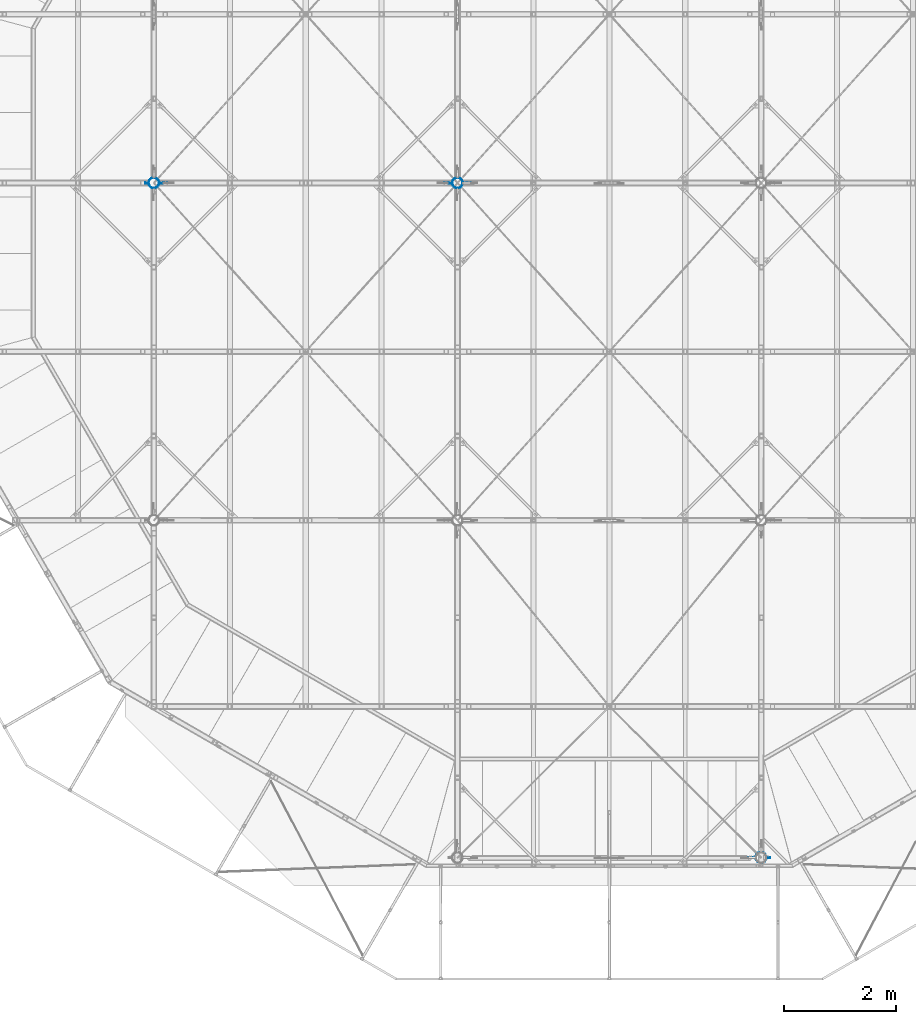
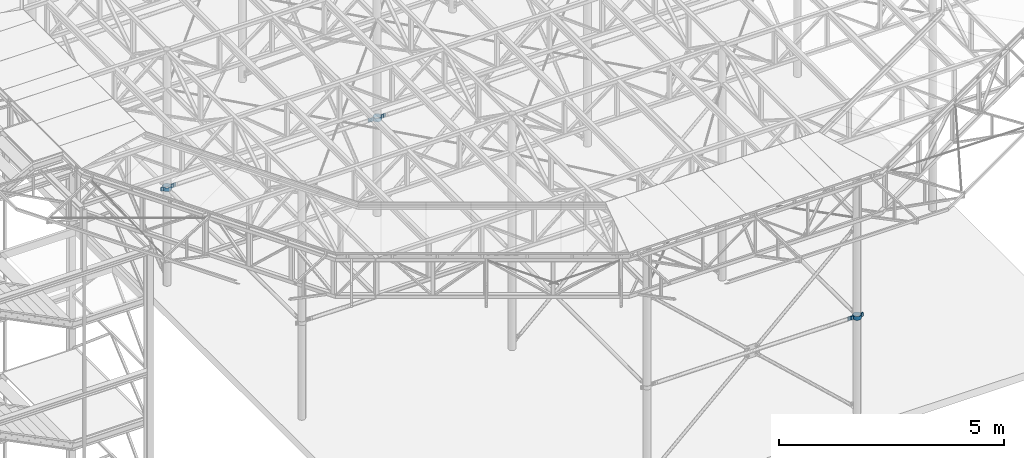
# One storey, part 127 of 132: 6 beams, 6 elements without a shape of their own.
"""IFC2X3 building model written with IfcOpenShell, lengths in millimetres."""

from ifc_helpers import new_model, si_unit, frame, origin_with_axes, place, context, subcontext, project, spatial, faceted_brep, material, type_object, element, aggregate, save


model = new_model("IFC2X3")

# Units and contexts
model_context = context("Model", 3, precision=1e-05, world=origin_with_axes())
body_context = subcontext(model_context, "Body", "Model", "MODEL_VIEW")
ifc_project = project(units=[si_unit("LENGTHUNIT", "METRE", prefix="MILLI"), si_unit("AREAUNIT", "SQUARE_METRE"), si_unit("VOLUMEUNIT", "CUBIC_METRE"), si_unit("MASSUNIT", "GRAM", prefix="KILO"), si_unit("TIMEUNIT", "SECOND"), si_unit("PLANEANGLEUNIT", "RADIAN"), si_unit("SOLIDANGLEUNIT", "STERADIAN"), si_unit("THERMODYNAMICTEMPERATUREUNIT", "DEGREE_CELSIUS"), si_unit("LUMINOUSINTENSITYUNIT", "LUMEN")], contexts=[model_context])

# Site, building, storey
site_placement = place(None, origin_with_axes())
site = spatial("IfcSite", under=ifc_project, at=site_placement, Name="Budowa", CompositionType="ELEMENT")
building_placement = place(site_placement, origin_with_axes())
building = spatial("IfcBuilding", under=site, at=building_placement, Name="Undefined", CompositionType="ELEMENT")
storey_placement = place(building_placement, origin_with_axes())
storey = spatial("IfcBuildingStorey", under=building, at=storey_placement, Name="Undefined", CompositionType="ELEMENT", Elevation=0.0)

# Assembly, beam
assembly_1_placement = place(storey_placement, origin_with_axes())
assembly_1 = element("IfcElementAssembly", 1, at=assembly_1_placement, inside=storey, Name="Steel Assembly", AssemblyPlace="NOTDEFINED", PredefinedType="RIGID_FRAME")
ifc_material = material(Name="STEEL/S235JR")
beam_type = type_object("IfcBeamType", Name="BL8*100", PredefinedType="NOTDEFINED")
beam_1_placement = place(assembly_1_placement, frame((4258.13669400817, 12006.0000002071, 10116.0003779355), z_axis=(0.0, 0.0, 1.0), x_axis=(-1.0, 0.0, 0.0)))
beam_1 = element("IfcBeam", 2, at=beam_1_placement, type_object=beam_type, material=ifc_material, Name="BEAM", ObjectType="BL8*100", context=body_context, shape_type="Brep", body=[
    faceted_brep([(0.0, 4.0, -50.0), (0.0, 4.0, 50.0), (129.968378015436, 4.0, 50.0), (129.968378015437, 4.00000000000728, -50.0), (0.0, -4.0, 50.0), (0.0, -4.0, -50.0), (129.968378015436, -4.0, -50.0), (129.968378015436, -4.0, 50.0), (137.356355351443, 2.19217357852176, 50.0), (137.356355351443, 2.19217357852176, -50.0), (133.662366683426, -4.90391321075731, -50.0), (133.662366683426, -4.90391321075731, 50.0), (136.521594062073, -7.41138806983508, -50.0), (136.521594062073, -7.41138806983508, 50.0), (143.074810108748, -2.8227761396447, 50.0), (143.074810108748, -2.8227761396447, -50.0), (137.89993680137, -10.955789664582, -50.0), (137.89993680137, -10.955789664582, 50.0), (145.831495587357, -9.91157932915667, 50.0), (145.831495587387, -9.91157932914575, -50.0), (146.782928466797, -17.1384239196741, 50.0), (146.782928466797, -17.1384239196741, -50.0), (138.988842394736, -19.2268423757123, -50.0), (138.988842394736, -19.2268423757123, 50.0), (155.714019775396, -38.7000007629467, 50.0), (155.714019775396, -38.7000007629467, -50.0), (148.726032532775, -42.7345153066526, -50.0), (148.726032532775, -42.7345153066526, 50.0), (169.921340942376, -57.2153472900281, 50.0), (169.921340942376, -57.2153472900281, -50.0), (164.215673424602, -62.9210138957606, -50.0), (164.215673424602, -62.9210138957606, 50.0), (188.436691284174, -71.4226760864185, 50.0), (188.436691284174, -71.4226760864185, -50.0), (184.402176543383, -78.4106633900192, -50.0), (184.402176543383, -78.4106633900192, 50.0), (209.998275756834, -80.3537673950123, 50.0), (209.998275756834, -80.3537673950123, -50.0), (207.909857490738, -88.1478534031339, -50.0), (207.909857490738, -88.1478534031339, 50.0), (233.136688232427, -83.4000015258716, 50.0), (233.136688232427, -83.4000015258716, -50.0), (233.136687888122, -91.4690333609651, -50.0), (233.136687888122, -91.4690333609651, 50.0), (256.275115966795, -80.3537673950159, 50.0), (256.275115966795, -80.3537673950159, -50.0), (258.363533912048, -88.1478535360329, -50.0), (258.363533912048, -88.1478535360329, 50.0), (277.836700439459, -71.4226760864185, 50.0), (277.836700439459, -71.4226760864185, -50.0), (281.87121518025, -78.4106633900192, -50.0), (281.87121518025, -78.4106633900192, 50.0), (296.352050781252, -57.2153472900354, 50.0), (296.352050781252, -57.2153472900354, -50.0), (302.057719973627, -62.9210126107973, -50.0), (302.057719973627, -62.9210126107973, 50.0), (310.559356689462, -38.7000007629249, 50.0), (310.559356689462, -38.7000007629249, -50.0), (317.5473417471, -42.7345172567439, -50.0), (317.5473417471, -42.7345172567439, 50.0), (319.490478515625, -17.138423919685, 50.0), (319.490478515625, -17.138423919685, -50.0), (327.284563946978, -19.2268472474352, -50.0), (327.284563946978, -19.2268472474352, 50.0), (320.4419114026, -9.91157923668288, 50.0), (320.441911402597, -9.91157923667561, -50.0), (328.37347018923, -10.9557895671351, -50.0), (328.37347018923, -10.9557895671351, 50.0), (323.198596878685, -2.82277604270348, 50.0), (323.198596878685, -2.82277604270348, -50.0), (329.75181292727, -7.41138797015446, -50.0), (329.75181292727, -7.41138797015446, 50.0), (332.611040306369, -4.90391310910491, -50.0), (332.611040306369, -4.90391310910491, 50.0), (328.917051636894, 2.19217367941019, 50.0), (328.917051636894, 2.19217367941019, -50.0), (336.305028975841, -3.99999989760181, -50.0), (336.305028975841, -3.99999989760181, 50.0), (336.30502897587, 4.00000010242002, 50.0), (336.305028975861, 4.0000001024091, -50.0), (391.273406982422, 4.0000001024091, 50.0), (391.273406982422, 4.0000001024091, -50.0), (391.273406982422, -3.9999998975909, 50.0), (391.273406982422, -3.9999998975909, -50.0)], [[[0, 1, 2, 3]], [[4, 5, 6, 7]], [[5, 4, 1, 0]], [[3, 2, 8, 9]], [[7, 6, 10, 11]], [[10, 12, 13, 11]], [[8, 14, 15, 9]], [[12, 16, 17, 13]], [[14, 18, 19, 15]], [[19, 18, 20, 21]], [[17, 16, 22, 23]], [[21, 20, 24, 25]], [[23, 22, 26, 27]], [[25, 24, 28, 29]], [[27, 26, 30, 31]], [[29, 28, 32, 33]], [[31, 30, 34, 35]], [[33, 32, 36, 37]], [[35, 34, 38, 39]], [[37, 36, 40, 41]], [[39, 38, 42, 43]], [[41, 40, 44, 45]], [[43, 42, 46, 47]], [[45, 44, 48, 49]], [[47, 46, 50, 51]], [[49, 48, 52, 53]], [[51, 50, 54, 55]], [[53, 52, 56, 57]], [[55, 54, 58, 59]], [[57, 56, 60, 61]], [[59, 58, 62, 63]], [[61, 60, 64, 65]], [[63, 62, 66, 67]], [[65, 64, 68, 69]], [[67, 66, 70, 71]], [[70, 72, 73, 71]], [[68, 74, 75, 69]], [[72, 76, 77, 73]], [[74, 78, 79, 75]], [[79, 78, 80, 81]], [[78, 74, 68, 64, 60, 56, 52, 48, 44, 40, 36, 32, 28, 24, 20, 18, 14, 8, 2, 1, 4, 7, 11, 13, 17, 23, 27, 31, 35, 39, 43, 47, 51, 55, 59, 63, 67, 71, 73, 77, 82, 80]], [[77, 76, 83, 82]], [[76, 72, 70, 66, 62, 58, 54, 50, 46, 42, 38, 34, 30, 26, 22, 16, 12, 10, 6, 5, 0, 3, 9, 15, 19, 21, 25, 29, 33, 37, 41, 45, 49, 53, 57, 61, 65, 69, 75, 79, 81, 83]], [[82, 83, 81, 80]]]),
])
aggregate(assembly_1, [beam_1])

assembly_2_placement = place(storey_placement, origin_with_axes())
assembly_2 = element("IfcElementAssembly", 3, at=assembly_2_placement, inside=storey, Name="Steel Assembly", AssemblyPlace="NOTDEFINED", PredefinedType="RIGID_FRAME")
beam_2_placement = place(assembly_2_placement, frame((4183.13669400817, 11993.9999999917, 10116.0003779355), z_axis=(0.0, 0.0, 1.0), x_axis=(-1.0, 0.0, 0.0)))
beam_2 = element("IfcBeam", 4, at=beam_2_placement, type_object=beam_type, material=ifc_material, Name="BEAM", ObjectType="BL8*100", context=body_context, shape_type="Brep", body=[
    faceted_brep([(0.0, 4.0, -50.0), (0.0, 4.0, 50.0), (54.9683780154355, 4.0, 50.0), (54.9683780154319, 4.00000000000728, -50.0), (0.0, -4.0, 50.0), (0.0, -4.0, -50.0), (54.9683780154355, -4.0, -50.0), (54.9683780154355, -4.0, 50.0), (58.6623666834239, 4.90391321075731, 50.0), (58.6623666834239, 4.90391321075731, -50.0), (62.3563553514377, -2.19217357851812, -50.0), (62.3563553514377, -2.19217357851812, 50.0), (68.0748101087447, 2.82277613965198, -50.0), (68.0748101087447, 2.82277613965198, 50.0), (61.5215940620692, 7.41138806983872, 50.0), (61.5215940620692, 7.41138806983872, -50.0), (70.8314955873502, 9.91157932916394, -50.0), (70.8314955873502, 9.91157932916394, 50.0), (62.8999368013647, 10.9557896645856, 50.0), (62.899936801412, 10.9557896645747, -50.0), (63.9888423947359, 19.2268423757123, 50.0), (63.9888423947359, 19.2268423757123, -50.0), (71.7829284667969, 17.1384239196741, -50.0), (71.7829284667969, 17.1384239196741, 50.0), (73.7260325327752, 42.7345153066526, 50.0), (73.7260325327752, 42.7345153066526, -50.0), (80.7140197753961, 38.7000007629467, -50.0), (80.7140197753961, 38.7000007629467, 50.0), (89.2156734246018, 62.9210138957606, 50.0), (89.2156734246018, 62.9210138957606, -50.0), (94.9213409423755, 57.2153472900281, -50.0), (94.9213409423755, 57.2153472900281, 50.0), (109.402176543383, 78.4106633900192, 50.0), (109.402176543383, 78.4106633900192, -50.0), (113.436691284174, 71.4226760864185, -50.0), (113.436691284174, 71.4226760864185, 50.0), (132.909857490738, 88.1478534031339, 50.0), (132.909857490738, 88.1478534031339, -50.0), (134.998275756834, 80.3537673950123, -50.0), (134.998275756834, 80.3537673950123, 50.0), (158.136687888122, 91.4690333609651, 50.0), (158.136687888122, 91.4690333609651, -50.0), (158.136688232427, 83.4000015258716, -50.0), (158.136688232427, 83.4000015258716, 50.0), (183.363533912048, 88.1478535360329, 50.0), (183.363533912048, 88.1478535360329, -50.0), (181.275115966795, 80.3537673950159, -50.0), (181.275115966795, 80.3537673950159, 50.0), (206.87121518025, 78.4106633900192, 50.0), (206.87121518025, 78.4106633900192, -50.0), (202.836700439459, 71.4226760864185, -50.0), (202.836700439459, 71.4226760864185, 50.0), (227.057719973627, 62.9210126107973, 50.0), (227.057719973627, 62.9210126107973, -50.0), (221.352050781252, 57.2153472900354, -50.0), (221.352050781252, 57.2153472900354, 50.0), (242.5473417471, 42.7345172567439, 50.0), (242.5473417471, 42.7345172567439, -50.0), (235.559356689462, 38.7000007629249, -50.0), (235.559356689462, 38.7000007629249, 50.0), (252.284563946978, 19.2268472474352, 50.0), (252.284563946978, 19.2268472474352, -50.0), (244.490478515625, 17.138423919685, -50.0), (244.490478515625, 17.138423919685, 50.0), (253.37347018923, 10.9557895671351, 50.0), (253.373470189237, 10.9557895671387, -50.0), (245.4419114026, 9.91157923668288, -50.0), (245.4419114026, 9.91157923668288, 50.0), (254.751812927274, 7.4113879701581, 50.0), (254.751812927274, 7.4113879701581, -50.0), (248.198596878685, 2.82277604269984, -50.0), (248.198596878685, 2.82277604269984, 50.0), (253.91705163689, -2.19217367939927, -50.0), (253.91705163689, -2.19217367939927, 50.0), (257.611040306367, 4.90391310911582, 50.0), (257.611040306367, 4.90391310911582, -50.0), (261.305028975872, -4.00000010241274, -50.0), (261.305028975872, -4.00000010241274, 50.0), (261.305028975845, 3.99999989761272, 50.0), (261.305028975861, 3.9999998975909, -50.0), (316.273406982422, 3.9999998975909, 50.0), (316.273406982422, 3.9999998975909, -50.0), (316.273406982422, -4.0000001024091, 50.0), (316.273406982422, -4.0000001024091, -50.0)], [[[0, 1, 2, 3]], [[4, 5, 6, 7]], [[5, 4, 1, 0]], [[3, 2, 8, 9]], [[7, 6, 10, 11]], [[10, 12, 13, 11]], [[8, 14, 15, 9]], [[12, 16, 17, 13]], [[14, 18, 19, 15]], [[19, 18, 20, 21]], [[17, 16, 22, 23]], [[21, 20, 24, 25]], [[23, 22, 26, 27]], [[25, 24, 28, 29]], [[27, 26, 30, 31]], [[29, 28, 32, 33]], [[31, 30, 34, 35]], [[33, 32, 36, 37]], [[35, 34, 38, 39]], [[37, 36, 40, 41]], [[39, 38, 42, 43]], [[41, 40, 44, 45]], [[43, 42, 46, 47]], [[45, 44, 48, 49]], [[47, 46, 50, 51]], [[49, 48, 52, 53]], [[51, 50, 54, 55]], [[53, 52, 56, 57]], [[55, 54, 58, 59]], [[57, 56, 60, 61]], [[59, 58, 62, 63]], [[61, 60, 64, 65]], [[63, 62, 66, 67]], [[65, 64, 68, 69]], [[67, 66, 70, 71]], [[70, 72, 73, 71]], [[68, 74, 75, 69]], [[72, 76, 77, 73]], [[74, 78, 79, 75]], [[79, 78, 80, 81]], [[78, 74, 68, 64, 60, 56, 52, 48, 44, 40, 36, 32, 28, 24, 20, 18, 14, 8, 2, 1, 4, 7, 11, 13, 17, 23, 27, 31, 35, 39, 43, 47, 51, 55, 59, 63, 67, 71, 73, 77, 82, 80]], [[77, 76, 83, 82]], [[76, 72, 70, 66, 62, 58, 54, 50, 46, 42, 38, 34, 30, 26, 22, 16, 12, 10, 6, 5, 0, 3, 9, 15, 19, 21, 25, 29, 33, 37, 41, 45, 49, 53, 57, 61, 65, 69, 75, 79, 81, 83]], [[82, 83, 81, 80]]]),
])
aggregate(assembly_2, [beam_2])

assembly_3_placement = place(storey_placement, origin_with_axes())
assembly_3 = element("IfcElementAssembly", 5, at=assembly_3_placement, inside=storey, Name="Steel Assembly", AssemblyPlace="NOTDEFINED", PredefinedType="RIGID_FRAME")
beam_3_placement = place(assembly_3_placement, frame((9658.13669408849, 12006.00000016, 10116.0003779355), z_axis=(0.0, 0.0, 1.0), x_axis=(-1.0, 0.0, 0.0)))
beam_3 = element("IfcBeam", 6, at=beam_3_placement, type_object=beam_type, material=ifc_material, Name="BEAM", ObjectType="BL8*100", context=body_context, shape_type="Brep", body=[
    faceted_brep([(0.0, 4.0, -50.0), (0.0, 4.0, 50.0), (129.968378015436, 4.0, 50.0), (129.968378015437, 4.00000000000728, -50.0), (0.0, -4.0, 50.0), (0.0, -4.0, -50.0), (129.968378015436, -4.0, -50.0), (129.968378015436, -4.0, 50.0), (137.356355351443, 2.19217357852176, 50.0), (137.356355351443, 2.19217357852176, -50.0), (133.662366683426, -4.90391321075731, -50.0), (133.662366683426, -4.90391321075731, 50.0), (136.521594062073, -7.41138806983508, -50.0), (136.521594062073, -7.41138806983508, 50.0), (143.074810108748, -2.8227761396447, 50.0), (143.074810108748, -2.8227761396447, -50.0), (137.89993680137, -10.955789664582, -50.0), (137.89993680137, -10.955789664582, 50.0), (145.831495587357, -9.91157932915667, 50.0), (145.831495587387, -9.91157932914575, -50.0), (146.782928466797, -17.1384239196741, 50.0), (146.782928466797, -17.1384239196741, -50.0), (138.988842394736, -19.2268423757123, -50.0), (138.988842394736, -19.2268423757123, 50.0), (155.714019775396, -38.7000007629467, 50.0), (155.714019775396, -38.7000007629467, -50.0), (148.726032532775, -42.7345153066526, -50.0), (148.726032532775, -42.7345153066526, 50.0), (169.921340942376, -57.2153472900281, 50.0), (169.921340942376, -57.2153472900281, -50.0), (164.215673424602, -62.9210138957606, -50.0), (164.215673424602, -62.9210138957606, 50.0), (188.436691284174, -71.4226760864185, 50.0), (188.436691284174, -71.4226760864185, -50.0), (184.402176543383, -78.4106633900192, -50.0), (184.402176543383, -78.4106633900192, 50.0), (209.998275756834, -80.3537673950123, 50.0), (209.998275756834, -80.3537673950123, -50.0), (207.909857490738, -88.1478534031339, -50.0), (207.909857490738, -88.1478534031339, 50.0), (233.136688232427, -83.4000015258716, 50.0), (233.136688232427, -83.4000015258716, -50.0), (233.136687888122, -91.4690333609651, -50.0), (233.136687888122, -91.4690333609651, 50.0), (256.275115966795, -80.3537673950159, 50.0), (256.275115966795, -80.3537673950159, -50.0), (258.363533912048, -88.1478535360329, -50.0), (258.363533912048, -88.1478535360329, 50.0), (277.836700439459, -71.4226760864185, 50.0), (277.836700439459, -71.4226760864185, -50.0), (281.87121518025, -78.4106633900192, -50.0), (281.87121518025, -78.4106633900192, 50.0), (296.352050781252, -57.2153472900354, 50.0), (296.352050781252, -57.2153472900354, -50.0), (302.057719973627, -62.9210126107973, -50.0), (302.057719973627, -62.9210126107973, 50.0), (310.559356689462, -38.7000007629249, 50.0), (310.559356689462, -38.7000007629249, -50.0), (317.5473417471, -42.7345172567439, -50.0), (317.5473417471, -42.7345172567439, 50.0), (319.490478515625, -17.138423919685, 50.0), (319.490478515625, -17.138423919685, -50.0), (327.284563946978, -19.2268472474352, -50.0), (327.284563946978, -19.2268472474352, 50.0), (320.4419114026, -9.91157923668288, 50.0), (320.441911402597, -9.91157923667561, -50.0), (328.37347018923, -10.9557895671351, -50.0), (328.37347018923, -10.9557895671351, 50.0), (323.198596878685, -2.82277604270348, 50.0), (323.198596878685, -2.82277604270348, -50.0), (329.75181292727, -7.41138797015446, -50.0), (329.75181292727, -7.41138797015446, 50.0), (332.611040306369, -4.90391310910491, -50.0), (332.611040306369, -4.90391310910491, 50.0), (328.917051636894, 2.19217367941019, 50.0), (328.917051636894, 2.19217367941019, -50.0), (336.305028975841, -3.99999989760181, -50.0), (336.305028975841, -3.99999989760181, 50.0), (336.30502897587, 4.00000010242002, 50.0), (336.305028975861, 4.0000001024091, -50.0), (466.273406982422, 4.0000001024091, 50.0), (466.273406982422, 4.0000001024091, -50.0), (466.273406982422, -3.9999998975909, 50.0), (466.273406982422, -3.9999998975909, -50.0)], [[[0, 1, 2, 3]], [[4, 5, 6, 7]], [[5, 4, 1, 0]], [[3, 2, 8, 9]], [[7, 6, 10, 11]], [[10, 12, 13, 11]], [[8, 14, 15, 9]], [[12, 16, 17, 13]], [[14, 18, 19, 15]], [[19, 18, 20, 21]], [[17, 16, 22, 23]], [[21, 20, 24, 25]], [[23, 22, 26, 27]], [[25, 24, 28, 29]], [[27, 26, 30, 31]], [[29, 28, 32, 33]], [[31, 30, 34, 35]], [[33, 32, 36, 37]], [[35, 34, 38, 39]], [[37, 36, 40, 41]], [[39, 38, 42, 43]], [[41, 40, 44, 45]], [[43, 42, 46, 47]], [[45, 44, 48, 49]], [[47, 46, 50, 51]], [[49, 48, 52, 53]], [[51, 50, 54, 55]], [[53, 52, 56, 57]], [[55, 54, 58, 59]], [[57, 56, 60, 61]], [[59, 58, 62, 63]], [[61, 60, 64, 65]], [[63, 62, 66, 67]], [[65, 64, 68, 69]], [[67, 66, 70, 71]], [[70, 72, 73, 71]], [[68, 74, 75, 69]], [[72, 76, 77, 73]], [[74, 78, 79, 75]], [[79, 78, 80, 81]], [[78, 74, 68, 64, 60, 56, 52, 48, 44, 40, 36, 32, 28, 24, 20, 18, 14, 8, 2, 1, 4, 7, 11, 13, 17, 23, 27, 31, 35, 39, 43, 47, 51, 55, 59, 63, 67, 71, 73, 77, 82, 80]], [[77, 76, 83, 82]], [[76, 72, 70, 66, 62, 58, 54, 50, 46, 42, 38, 34, 30, 26, 22, 16, 12, 10, 6, 5, 0, 3, 9, 15, 19, 21, 25, 29, 33, 37, 41, 45, 49, 53, 57, 61, 65, 69, 75, 79, 81, 83]], [[82, 83, 81, 80]]]),
])
aggregate(assembly_3, [beam_3])

assembly_4_placement = place(storey_placement, origin_with_axes())
assembly_4 = element("IfcElementAssembly", 7, at=assembly_4_placement, inside=storey, Name="Steel Assembly", AssemblyPlace="NOTDEFINED", PredefinedType="RIGID_FRAME")
beam_4_placement = place(assembly_4_placement, frame((9583.13669408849, 11993.9999999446, 10116.0003779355), z_axis=(0.0, 0.0, 1.0), x_axis=(-1.0, 0.0, 0.0)))
beam_4 = element("IfcBeam", 8, at=beam_4_placement, type_object=beam_type, material=ifc_material, Name="BEAM", ObjectType="BL8*100", context=body_context, shape_type="Brep", body=[
    faceted_brep([(0.0, 4.0, -50.0), (0.0, 4.0, 50.0), (54.9683780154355, 4.0, 50.0), (54.9683780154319, 4.00000000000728, -50.0), (0.0, -4.0, 50.0), (0.0, -4.0, -50.0), (54.9683780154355, -4.0, -50.0), (54.9683780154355, -4.0, 50.0), (58.6623666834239, 4.90391321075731, 50.0), (58.6623666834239, 4.90391321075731, -50.0), (62.3563553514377, -2.19217357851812, -50.0), (62.3563553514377, -2.19217357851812, 50.0), (68.0748101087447, 2.82277613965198, -50.0), (68.0748101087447, 2.82277613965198, 50.0), (61.5215940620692, 7.41138806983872, 50.0), (61.5215940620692, 7.41138806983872, -50.0), (70.8314955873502, 9.91157932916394, -50.0), (70.8314955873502, 9.91157932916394, 50.0), (62.8999368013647, 10.9557896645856, 50.0), (62.899936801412, 10.9557896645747, -50.0), (63.9888423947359, 19.2268423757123, 50.0), (63.9888423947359, 19.2268423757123, -50.0), (71.7829284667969, 17.1384239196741, -50.0), (71.7829284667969, 17.1384239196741, 50.0), (73.7260325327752, 42.7345153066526, 50.0), (73.7260325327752, 42.7345153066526, -50.0), (80.7140197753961, 38.7000007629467, -50.0), (80.7140197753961, 38.7000007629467, 50.0), (89.2156734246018, 62.9210138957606, 50.0), (89.2156734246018, 62.9210138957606, -50.0), (94.9213409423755, 57.2153472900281, -50.0), (94.9213409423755, 57.2153472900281, 50.0), (109.402176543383, 78.4106633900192, 50.0), (109.402176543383, 78.4106633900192, -50.0), (113.436691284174, 71.4226760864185, -50.0), (113.436691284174, 71.4226760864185, 50.0), (132.909857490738, 88.1478534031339, 50.0), (132.909857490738, 88.1478534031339, -50.0), (134.998275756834, 80.3537673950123, -50.0), (134.998275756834, 80.3537673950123, 50.0), (158.136687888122, 91.4690333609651, 50.0), (158.136687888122, 91.4690333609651, -50.0), (158.136688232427, 83.4000015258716, -50.0), (158.136688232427, 83.4000015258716, 50.0), (183.363533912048, 88.1478535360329, 50.0), (183.363533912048, 88.1478535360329, -50.0), (181.275115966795, 80.3537673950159, -50.0), (181.275115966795, 80.3537673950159, 50.0), (206.87121518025, 78.4106633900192, 50.0), (206.87121518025, 78.4106633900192, -50.0), (202.836700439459, 71.4226760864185, -50.0), (202.836700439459, 71.4226760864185, 50.0), (227.057719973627, 62.9210126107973, 50.0), (227.057719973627, 62.9210126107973, -50.0), (221.352050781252, 57.2153472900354, -50.0), (221.352050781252, 57.2153472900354, 50.0), (242.5473417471, 42.7345172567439, 50.0), (242.5473417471, 42.7345172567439, -50.0), (235.559356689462, 38.7000007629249, -50.0), (235.559356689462, 38.7000007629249, 50.0), (252.284563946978, 19.2268472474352, 50.0), (252.284563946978, 19.2268472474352, -50.0), (244.490478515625, 17.138423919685, -50.0), (244.490478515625, 17.138423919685, 50.0), (253.37347018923, 10.9557895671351, 50.0), (253.373470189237, 10.9557895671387, -50.0), (245.4419114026, 9.91157923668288, -50.0), (245.4419114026, 9.91157923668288, 50.0), (254.751812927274, 7.4113879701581, 50.0), (254.751812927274, 7.4113879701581, -50.0), (248.198596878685, 2.82277604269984, -50.0), (248.198596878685, 2.82277604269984, 50.0), (253.91705163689, -2.19217367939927, -50.0), (253.91705163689, -2.19217367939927, 50.0), (257.611040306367, 4.90391310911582, 50.0), (257.611040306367, 4.90391310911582, -50.0), (261.305028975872, -4.00000010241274, -50.0), (261.305028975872, -4.00000010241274, 50.0), (261.305028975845, 3.99999989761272, 50.0), (261.305028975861, 3.9999998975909, -50.0), (316.273406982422, 3.9999998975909, 50.0), (316.273406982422, 3.9999998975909, -50.0), (316.273406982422, -4.0000001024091, 50.0), (316.273406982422, -4.0000001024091, -50.0)], [[[0, 1, 2, 3]], [[4, 5, 6, 7]], [[5, 4, 1, 0]], [[3, 2, 8, 9]], [[7, 6, 10, 11]], [[10, 12, 13, 11]], [[8, 14, 15, 9]], [[12, 16, 17, 13]], [[14, 18, 19, 15]], [[19, 18, 20, 21]], [[17, 16, 22, 23]], [[21, 20, 24, 25]], [[23, 22, 26, 27]], [[25, 24, 28, 29]], [[27, 26, 30, 31]], [[29, 28, 32, 33]], [[31, 30, 34, 35]], [[33, 32, 36, 37]], [[35, 34, 38, 39]], [[37, 36, 40, 41]], [[39, 38, 42, 43]], [[41, 40, 44, 45]], [[43, 42, 46, 47]], [[45, 44, 48, 49]], [[47, 46, 50, 51]], [[49, 48, 52, 53]], [[51, 50, 54, 55]], [[53, 52, 56, 57]], [[55, 54, 58, 59]], [[57, 56, 60, 61]], [[59, 58, 62, 63]], [[61, 60, 64, 65]], [[63, 62, 66, 67]], [[65, 64, 68, 69]], [[67, 66, 70, 71]], [[70, 72, 73, 71]], [[68, 74, 75, 69]], [[72, 76, 77, 73]], [[74, 78, 79, 75]], [[79, 78, 80, 81]], [[78, 74, 68, 64, 60, 56, 52, 48, 44, 40, 36, 32, 28, 24, 20, 18, 14, 8, 2, 1, 4, 7, 11, 13, 17, 23, 27, 31, 35, 39, 43, 47, 51, 55, 59, 63, 67, 71, 73, 77, 82, 80]], [[77, 76, 83, 82]], [[76, 72, 70, 66, 62, 58, 54, 50, 46, 42, 38, 34, 30, 26, 22, 16, 12, 10, 6, 5, 0, 3, 9, 15, 19, 21, 25, 29, 33, 37, 41, 45, 49, 53, 57, 61, 65, 69, 75, 79, 81, 83]], [[82, 83, 81, 80]]]),
])
aggregate(assembly_4, [beam_4])

assembly_5_placement = place(storey_placement, origin_with_axes())
assembly_5 = element("IfcElementAssembly", 9, at=assembly_5_placement, inside=storey, Name="Steel Assembly", AssemblyPlace="NOTDEFINED", PredefinedType="RIGID_FRAME")
beam_5_placement = place(assembly_5_placement, frame((14591.8633056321, 6.00000016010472, 10116.0003779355), z_axis=(0.0, 0.0, 1.0), x_axis=(1.0, 0.0, 0.0)))
beam_5 = element("IfcBeam", 10, at=beam_5_placement, type_object=beam_type, material=ifc_material, Name="BEAM", ObjectType="BL8*100", context=body_context, shape_type="Brep", body=[
    faceted_brep([(0.0, 4.0, -50.0), (0.0, 4.0, 50.0), (129.968378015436, 4.0, 50.0), (129.968378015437, 4.00000000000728, -50.0), (0.0, -4.0, 50.0), (0.0, -4.0, -50.0), (129.968378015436, -4.0, -50.0), (129.968378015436, -4.0, 50.0), (133.662366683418, 4.90391321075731, 50.0), (133.662366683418, 4.90391321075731, -50.0), (137.356355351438, -2.19217357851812, -50.0), (137.356355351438, -2.19217357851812, 50.0), (143.074810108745, 2.82277613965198, -50.0), (143.074810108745, 2.82277613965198, 50.0), (136.521594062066, 7.41138806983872, 50.0), (136.521594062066, 7.41138806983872, -50.0), (145.83149558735, 9.91157932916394, -50.0), (145.83149558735, 9.91157932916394, 50.0), (137.899936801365, 10.9557896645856, 50.0), (137.899936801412, 10.9557896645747, -50.0), (138.988842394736, 19.2268423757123, 50.0), (138.988842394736, 19.2268423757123, -50.0), (146.782928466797, 17.1384239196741, -50.0), (146.782928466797, 17.1384239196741, 50.0), (148.726032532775, 42.7345153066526, 50.0), (148.726032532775, 42.7345153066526, -50.0), (155.714019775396, 38.7000007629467, -50.0), (155.714019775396, 38.7000007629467, 50.0), (164.215673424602, 62.9210138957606, 50.0), (164.215673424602, 62.9210138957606, -50.0), (169.921340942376, 57.2153472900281, -50.0), (169.921340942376, 57.2153472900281, 50.0), (184.402176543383, 78.4106633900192, 50.0), (184.402176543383, 78.4106633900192, -50.0), (188.436691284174, 71.4226760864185, -50.0), (188.436691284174, 71.4226760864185, 50.0), (207.909857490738, 88.1478534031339, 50.0), (207.909857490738, 88.1478534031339, -50.0), (209.998275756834, 80.3537673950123, -50.0), (209.998275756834, 80.3537673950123, 50.0), (233.136687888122, 91.4690333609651, 50.0), (233.136687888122, 91.4690333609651, -50.0), (233.136688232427, 83.4000015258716, -50.0), (233.136688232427, 83.4000015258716, 50.0), (258.363533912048, 88.1478535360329, 50.0), (258.363533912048, 88.1478535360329, -50.0), (256.275115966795, 80.3537673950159, -50.0), (256.275115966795, 80.3537673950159, 50.0), (281.87121518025, 78.4106633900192, 50.0), (281.87121518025, 78.4106633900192, -50.0), (277.836700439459, 71.4226760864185, -50.0), (277.836700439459, 71.4226760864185, 50.0), (302.057719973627, 62.9210126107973, 50.0), (302.057719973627, 62.9210126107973, -50.0), (296.352050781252, 57.2153472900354, -50.0), (296.352050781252, 57.2153472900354, 50.0), (317.5473417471, 42.7345172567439, 50.0), (317.5473417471, 42.7345172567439, -50.0), (310.559356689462, 38.7000007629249, -50.0), (310.559356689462, 38.7000007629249, 50.0), (327.284563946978, 19.2268472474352, 50.0), (327.284563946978, 19.2268472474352, -50.0), (319.490478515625, 17.138423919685, -50.0), (319.490478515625, 17.138423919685, 50.0), (328.37347018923, 10.9557895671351, 50.0), (328.373470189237, 10.9557895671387, -50.0), (320.4419114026, 9.91157923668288, -50.0), (320.4419114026, 9.91157923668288, 50.0), (329.751812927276, 7.41138797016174, 50.0), (329.751812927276, 7.41138797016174, -50.0), (323.19859687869, 2.82277604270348, -50.0), (323.19859687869, 2.82277604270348, 50.0), (328.917051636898, -2.19217367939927, -50.0), (328.917051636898, -2.19217367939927, 50.0), (332.611040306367, 4.90391310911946, 50.0), (332.611040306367, 4.90391310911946, -50.0), (336.305028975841, -3.99999989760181, -50.0), (336.305028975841, -3.99999989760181, 50.0), (336.30502897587, 4.00000010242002, 50.0), (336.305028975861, 4.0000001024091, -50.0), (391.273406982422, 4.0000001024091, 50.0), (391.273406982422, 4.0000001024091, -50.0), (391.273406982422, -3.9999998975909, 50.0), (391.273406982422, -3.9999998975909, -50.0)], [[[0, 1, 2, 3]], [[4, 5, 6, 7]], [[5, 4, 1, 0]], [[3, 2, 8, 9]], [[7, 6, 10, 11]], [[10, 12, 13, 11]], [[8, 14, 15, 9]], [[12, 16, 17, 13]], [[14, 18, 19, 15]], [[19, 18, 20, 21]], [[17, 16, 22, 23]], [[21, 20, 24, 25]], [[23, 22, 26, 27]], [[25, 24, 28, 29]], [[27, 26, 30, 31]], [[29, 28, 32, 33]], [[31, 30, 34, 35]], [[33, 32, 36, 37]], [[35, 34, 38, 39]], [[37, 36, 40, 41]], [[39, 38, 42, 43]], [[41, 40, 44, 45]], [[43, 42, 46, 47]], [[45, 44, 48, 49]], [[47, 46, 50, 51]], [[49, 48, 52, 53]], [[51, 50, 54, 55]], [[53, 52, 56, 57]], [[55, 54, 58, 59]], [[57, 56, 60, 61]], [[59, 58, 62, 63]], [[61, 60, 64, 65]], [[63, 62, 66, 67]], [[65, 64, 68, 69]], [[67, 66, 70, 71]], [[70, 72, 73, 71]], [[68, 74, 75, 69]], [[72, 76, 77, 73]], [[74, 78, 79, 75]], [[79, 78, 80, 81]], [[78, 74, 68, 64, 60, 56, 52, 48, 44, 40, 36, 32, 28, 24, 20, 18, 14, 8, 2, 1, 4, 7, 11, 13, 17, 23, 27, 31, 35, 39, 43, 47, 51, 55, 59, 63, 67, 71, 73, 77, 82, 80]], [[77, 76, 83, 82]], [[76, 72, 70, 66, 62, 58, 54, 50, 46, 42, 38, 34, 30, 26, 22, 16, 12, 10, 6, 5, 0, 3, 9, 15, 19, 21, 25, 29, 33, 37, 41, 45, 49, 53, 57, 61, 65, 69, 75, 79, 81, 83]], [[82, 83, 81, 80]]]),
])
aggregate(assembly_5, [beam_5])

assembly_6_placement = place(storey_placement, origin_with_axes())
assembly_6 = element("IfcElementAssembly", 11, at=assembly_6_placement, inside=storey, Name="Steel Assembly", AssemblyPlace="NOTDEFINED", PredefinedType="RIGID_FRAME")
beam_6_placement = place(assembly_6_placement, frame((14666.8633056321, -6.00000005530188, 10116.0003779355), z_axis=(0.0, 0.0, 1.0), x_axis=(1.0, 0.0, 0.0)))
beam_6 = element("IfcBeam", 12, at=beam_6_placement, type_object=beam_type, material=ifc_material, Name="BEAM", ObjectType="BL8*100", context=body_context, shape_type="Brep", body=[
    faceted_brep([(0.0, 4.0, -50.0), (0.0, 4.0, 50.0), (54.9683780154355, 4.0, 50.0), (54.9683780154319, 4.00000000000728, -50.0), (0.0, -4.0, 50.0), (0.0, -4.0, -50.0), (54.9683780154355, -4.0, -50.0), (54.9683780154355, -4.0, 50.0), (62.3563553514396, 2.19217357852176, 50.0), (62.3563553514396, 2.19217357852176, -50.0), (58.6623666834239, -4.90391321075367, -50.0), (58.6623666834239, -4.90391321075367, 50.0), (61.521594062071, -7.41138806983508, -50.0), (61.521594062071, -7.41138806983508, 50.0), (68.0748101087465, -2.82277613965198, 50.0), (68.0748101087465, -2.82277613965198, -50.0), (62.8999368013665, -10.955789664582, -50.0), (62.8999368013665, -10.955789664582, 50.0), (70.831495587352, -9.91157932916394, 50.0), (70.8314955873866, -9.91157932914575, -50.0), (71.7829284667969, -17.1384239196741, 50.0), (71.7829284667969, -17.1384239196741, -50.0), (63.9888423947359, -19.2268423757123, -50.0), (63.9888423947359, -19.2268423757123, 50.0), (80.7140197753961, -38.7000007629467, 50.0), (80.7140197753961, -38.7000007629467, -50.0), (73.7260325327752, -42.7345153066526, -50.0), (73.7260325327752, -42.7345153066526, 50.0), (94.9213409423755, -57.2153472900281, 50.0), (94.9213409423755, -57.2153472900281, -50.0), (89.2156734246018, -62.9210138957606, -50.0), (89.2156734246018, -62.9210138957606, 50.0), (113.436691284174, -71.4226760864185, 50.0), (113.436691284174, -71.4226760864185, -50.0), (109.402176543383, -78.4106633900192, -50.0), (109.402176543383, -78.4106633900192, 50.0), (134.998275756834, -80.3537673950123, 50.0), (134.998275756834, -80.3537673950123, -50.0), (132.909857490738, -88.1478534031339, -50.0), (132.909857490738, -88.1478534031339, 50.0), (158.136688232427, -83.4000015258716, 50.0), (158.136688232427, -83.4000015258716, -50.0), (158.136687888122, -91.4690333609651, -50.0), (158.136687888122, -91.4690333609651, 50.0), (181.275115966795, -80.3537673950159, 50.0), (181.275115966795, -80.3537673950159, -50.0), (183.363533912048, -88.1478535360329, -50.0), (183.363533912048, -88.1478535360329, 50.0), (202.836700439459, -71.4226760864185, 50.0), (202.836700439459, -71.4226760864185, -50.0), (206.87121518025, -78.4106633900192, -50.0), (206.87121518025, -78.4106633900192, 50.0), (221.352050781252, -57.2153472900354, 50.0), (221.352050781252, -57.2153472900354, -50.0), (227.057719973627, -62.9210126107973, -50.0), (227.057719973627, -62.9210126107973, 50.0), (235.559356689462, -38.7000007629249, 50.0), (235.559356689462, -38.7000007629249, -50.0), (242.5473417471, -42.7345172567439, -50.0), (242.5473417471, -42.7345172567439, 50.0), (244.490478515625, -17.138423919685, 50.0), (244.490478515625, -17.138423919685, -50.0), (252.284563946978, -19.2268472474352, -50.0), (252.284563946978, -19.2268472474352, 50.0), (245.4419114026, -9.91157923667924, 50.0), (245.441911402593, -9.91157923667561, -50.0), (253.37347018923, -10.9557895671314, -50.0), (253.37347018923, -10.9557895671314, 50.0), (248.198596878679, -2.82277604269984, 50.0), (248.198596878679, -2.82277604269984, -50.0), (254.75181292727, -7.41138797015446, -50.0), (254.75181292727, -7.41138797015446, 50.0), (257.611040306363, -4.90391310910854, -50.0), (257.611040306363, -4.90391310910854, 50.0), (253.917051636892, 2.19217367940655, 50.0), (253.917051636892, 2.19217367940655, -50.0), (261.305028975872, -4.00000010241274, -50.0), (261.305028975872, -4.00000010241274, 50.0), (261.305028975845, 3.99999989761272, 50.0), (261.305028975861, 3.9999998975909, -50.0), (316.273406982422, 3.9999998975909, 50.0), (316.273406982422, 3.9999998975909, -50.0), (316.273406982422, -4.0000001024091, 50.0), (316.273406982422, -4.0000001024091, -50.0)], [[[0, 1, 2, 3]], [[4, 5, 6, 7]], [[5, 4, 1, 0]], [[3, 2, 8, 9]], [[7, 6, 10, 11]], [[10, 12, 13, 11]], [[8, 14, 15, 9]], [[12, 16, 17, 13]], [[14, 18, 19, 15]], [[19, 18, 20, 21]], [[17, 16, 22, 23]], [[21, 20, 24, 25]], [[23, 22, 26, 27]], [[25, 24, 28, 29]], [[27, 26, 30, 31]], [[29, 28, 32, 33]], [[31, 30, 34, 35]], [[33, 32, 36, 37]], [[35, 34, 38, 39]], [[37, 36, 40, 41]], [[39, 38, 42, 43]], [[41, 40, 44, 45]], [[43, 42, 46, 47]], [[45, 44, 48, 49]], [[47, 46, 50, 51]], [[49, 48, 52, 53]], [[51, 50, 54, 55]], [[53, 52, 56, 57]], [[55, 54, 58, 59]], [[57, 56, 60, 61]], [[59, 58, 62, 63]], [[61, 60, 64, 65]], [[63, 62, 66, 67]], [[65, 64, 68, 69]], [[67, 66, 70, 71]], [[70, 72, 73, 71]], [[68, 74, 75, 69]], [[72, 76, 77, 73]], [[74, 78, 79, 75]], [[79, 78, 80, 81]], [[78, 74, 68, 64, 60, 56, 52, 48, 44, 40, 36, 32, 28, 24, 20, 18, 14, 8, 2, 1, 4, 7, 11, 13, 17, 23, 27, 31, 35, 39, 43, 47, 51, 55, 59, 63, 67, 71, 73, 77, 82, 80]], [[77, 76, 83, 82]], [[76, 72, 70, 66, 62, 58, 54, 50, 46, 42, 38, 34, 30, 26, 22, 16, 12, 10, 6, 5, 0, 3, 9, 15, 19, 21, 25, 29, 33, 37, 41, 45, 49, 53, 57, 61, 65, 69, 75, 79, 81, 83]], [[82, 83, 81, 80]]]),
])
aggregate(assembly_6, [beam_6])

save(model, "model.ifc")
